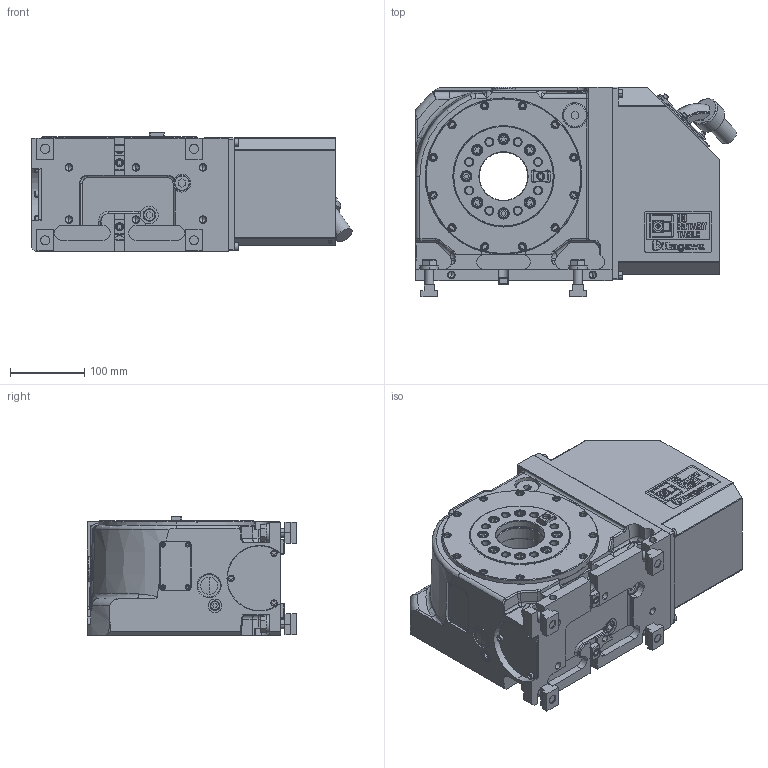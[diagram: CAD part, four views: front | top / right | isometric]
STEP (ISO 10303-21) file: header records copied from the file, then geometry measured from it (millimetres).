
FILE_DESCRIPTION (( 'STEP AP214' ), '1' );
FILE_NAME ('【掲載用】MK200Quinte右勝手.STEP', '2019-10-10T05:34:34', ( '' ), ( '' ), 'SwSTEP 2.0', 'SolidWorks 2017', '' );
FILE_SCHEMA (( 'AUTOMOTIVE_DESIGN' ));
Length unit declared in the file: millimetre
Products named in the file (24): 僇僶乕A(61E445263); Tスロットナット１４１２; ベアリングプッシュプレート(61E8405391)MK200RA00_回転モデル; B パーカ　M12×40; ワッシャ １２(61M4266320)VQ100; ベース(61E1153834)MK200RA00_回転モデル; MK200RAVホンタイ; キタガワシール; 【掲載用】MK200Quinte右勝手; TABLE(61E8443975)MK200RA00; 働乕僽儖N29ZSZ2562; モータケース(61E2822842)MK200RAV00; アナプラグ 04; Bアナツキ M5×10; アナプラグ 02; アナプラグ 03; Bアナツキ M6×10; 僣僶僣僉僾儔僌GFO M20x1.5; ネームプレートCE（61E483267）リベットメイバン; ガイドブロック(61M4198751); オイルゲージ３０８; CKR160 チェックバルブ AKB01A-01S-×435; シリンダ(61E281391); クランプキミタテ(61E473251)CK160D1
Assembly tree (36 placements, depth 3):
  【掲載用】MK200Quinte右勝手
    MK200RAVホンタイ
      ベース(61E1153834)MK200RA00_回転モデル
      ベアリングプッシュプレート(61E8405391)MK200RA00_回転モデル
      僇僶乕A(61E445263)
      シリンダ(61E281391)
      CKR160 チェックバルブ AKB01A-01S-×435
      オイルゲージ３０８
      ガイドブロック(61M4198751)  x2
      ネームプレートCE（61E483267）リベットメイバン
      僣僶僣僉僾儔僌GFO M20x1.5  x2
      Bアナツキ M6×10  x2
      アナプラグ 03  x4
      アナプラグ 02  x3
      Bアナツキ M5×10  x3
      アナプラグ 04
      モータケース(61E2822842)MK200RAV00
      働乕僽儖N29ZSZ2562
      TABLE(61E8443975)MK200RA00
      キタガワシール
    クランプキミタテ(61E473251)CK160D1  x4
      ワッシャ １２(61M4266320)VQ100
      B パーカ　M12×40
      Tスロットナット１４１２
Bounding box: 430.93 x 282 x 160 mm (x, y, z)
Volume: 12893721.6 mm3; surface area: 943071.8 mm2
Topology: 42 solids, 43 shells, 3547 faces, 9128 edges, 5862 vertices
Faces by surface type: plane 2279, cylinder 764, cone 400, bspline 46, torus 35, sphere 23
Entity records: 112812 total; most frequent: CARTESIAN_POINT 20424, ORIENTED_EDGE 16886, DIRECTION 16533, EDGE_CURVE 8443, LINE 6471, VECTOR 6471, VERTEX_POINT 5490, AXIS2_PLACEMENT_3D 5031
